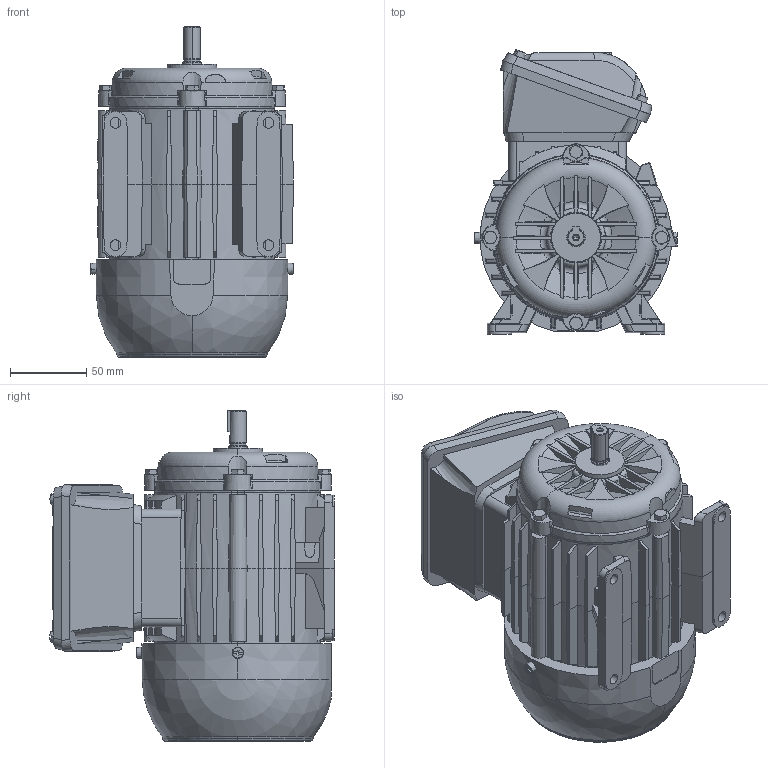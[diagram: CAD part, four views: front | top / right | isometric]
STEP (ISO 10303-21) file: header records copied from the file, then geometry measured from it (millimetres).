
FILE_DESCRIPTION (( 'STEP AP203' ), '1' );
FILE_NAME ('63_TOP.STEP', '2013-10-30T19:43:01', ( 'Support' ), ( '' ), 'SwSTEP 2.0', 'SolidWorks 2012', '' );
FILE_SCHEMA (( 'CONFIG_CONTROL_DESIGN' ));
Length unit declared in the file: millimetre
Products named in the file (1): 63_TOP
Bounding box: 132.9 x 185.98 x 216.4 mm (x, y, z)
Volume: 2539306.7 mm3; surface area: 245563.6 mm2
Topology: 17 solids, 18 shells, 1467 faces, 3760 edges, 2428 vertices
Faces by surface type: plane 964, cone 224, cylinder 167, bspline 61, torus 49, sphere 2
Entity records: 48282 total; most frequent: CARTESIAN_POINT 14359, ORIENTED_EDGE 7516, DIRECTION 6273, EDGE_CURVE 3758, VERTEX_POINT 2428, LINE 2145, VECTOR 2145, AXIS2_PLACEMENT_3D 2064
